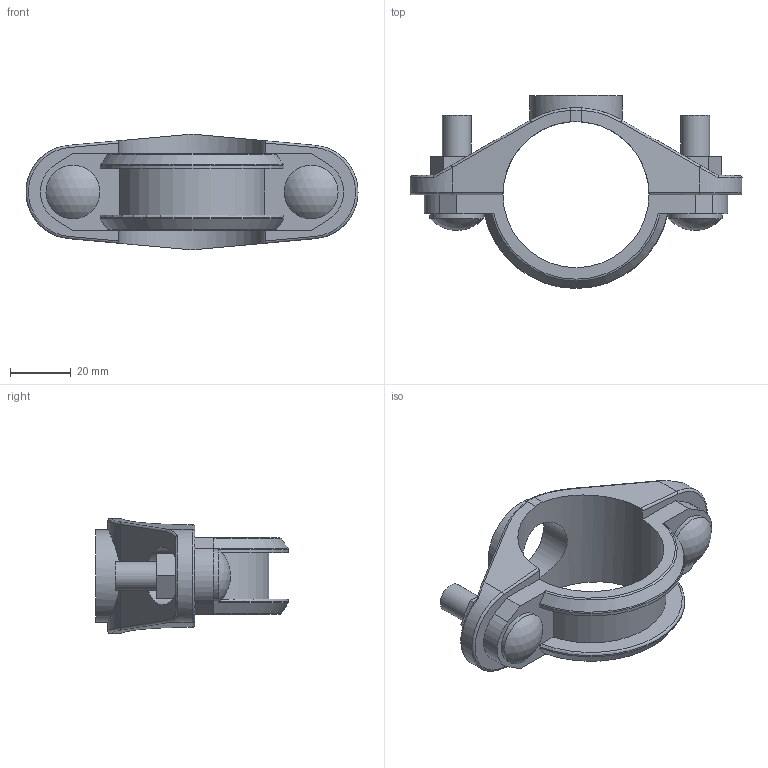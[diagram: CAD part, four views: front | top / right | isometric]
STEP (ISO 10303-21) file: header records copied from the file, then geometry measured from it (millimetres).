
FILE_DESCRIPTION(/* description */ ('Victaulic FireLock Low-Profile Sprinkler-Tee Style 912','CAx-IF Rec.Pracs.---Representation and Presentation of Product Manufacturing Information (PMI)---4.0---2014-10-13'),/* implementation_level */ '2;1');
FILE_NAME(/* name */ 'C:\Users\Vjadhav\AppData\Roaming\Autodesk\ApplicationPlugins\Back Up\Victaulic_FP-FireLock_Tee Low-Profile Sprinkler_Style 912 (OGSxFBSPP)\Victaulic_FP-FireLock_Tee Low-Profile Sprinkler_Style 912 (OGSxFBSPP)_01.5x0.50 (40x15).stp',/* time_stamp */ '2020-07-20T12:44:03+05:00',/* author */ ('kkamble'),/* organization */ ('Victaulic'),/* preprocessor_version */ 'ST-DEVELOPER v17.2',/* originating_system */ 'Autodesk Inventor 2019',/* authorisation */ '');
FILE_SCHEMA (('AP242_MANAGED_MODEL_BASED_3D_ENGINEERING_MIM_LF { 1 0 10303 442 1 1 4 }'));
Length unit declared in the file: inch
Products named in the file (1): 912-01.5x0.5
Bounding box: 109.7 x 63.75 x 38.1 mm (x, y, z)
Volume: 45240.8 mm3; surface area: 21448.6 mm2
Topology: 1 solids, 3 shells, 101 faces, 286 edges, 187 vertices
Faces by surface type: plane 45, cylinder 34, bspline 10, torus 8, cone 2, sphere 2
Full cylindrical faces by diameter (mm): 9.55 x4, 17.78 x2, 21.336 x1, 30.48 x1, 48.26 x1
Entity records: 3985 total; most frequent: CARTESIAN_POINT 1104, DIRECTION 575, ORIENTED_EDGE 572, EDGE_CURVE 286, AXIS2_PLACEMENT_3D 218, VERTEX_POINT 187, LINE 139, VECTOR 139
